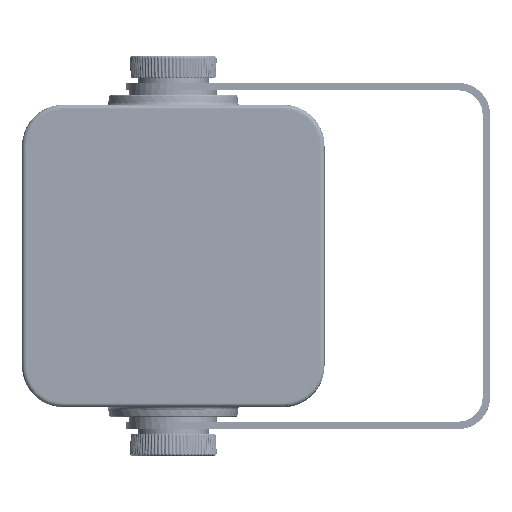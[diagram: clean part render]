
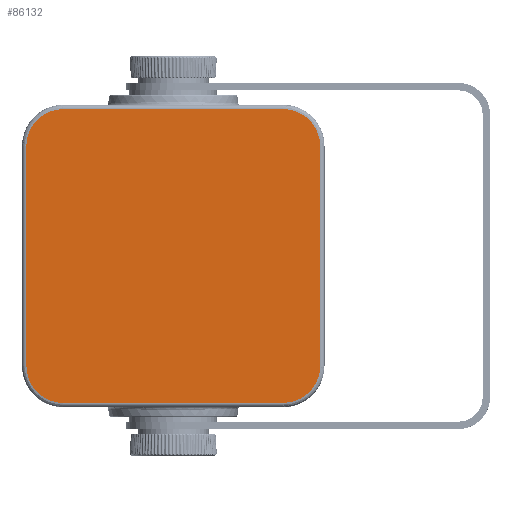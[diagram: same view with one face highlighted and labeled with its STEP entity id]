
A CAD part, front view. The second image highlights one B-rep face of the part: STEP entity #86132.
In plain terms, the highlighted planar face has unit normal (0, -1, 0).
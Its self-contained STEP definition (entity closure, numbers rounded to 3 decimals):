
#8541=B_SPLINE_CURVE_WITH_KNOTS('',3,(#134797,#134798,#134799,#134800,#134801,
#134802,#134803),.UNSPECIFIED.,.F.,.F.,(4,1,1,1,4),(0.,0.25,0.5,0.75,1.),
 .UNSPECIFIED.);
#8542=B_SPLINE_CURVE_WITH_KNOTS('',3,(#134808,#134809,#134810,#134811,#134812,
#134813,#134814),.UNSPECIFIED.,.F.,.F.,(4,1,1,1,4),(0.,0.25,0.5,0.75,1.),
 .UNSPECIFIED.);
#8543=B_SPLINE_CURVE_WITH_KNOTS('',3,(#134818,#134819,#134820,#134821,#134822,
#134823,#134824),.UNSPECIFIED.,.F.,.F.,(4,1,1,1,4),(0.,0.25,0.5,0.75,1.),
 .UNSPECIFIED.);
#8544=B_SPLINE_CURVE_WITH_KNOTS('',3,(#134828,#134829,#134830,#134831,#134832,
#134833,#134834),.UNSPECIFIED.,.F.,.F.,(4,1,1,1,4),(0.,0.25,0.5,0.75,1.),
 .UNSPECIFIED.);
#13114=ORIENTED_EDGE('',*,*,#39998,.T.);
#13115=ORIENTED_EDGE('',*,*,#39999,.T.);
#13116=ORIENTED_EDGE('',*,*,#40000,.T.);
#13117=ORIENTED_EDGE('',*,*,#40001,.T.);
#13118=ORIENTED_EDGE('',*,*,#40002,.T.);
#13119=ORIENTED_EDGE('',*,*,#40003,.T.);
#13120=ORIENTED_EDGE('',*,*,#40004,.T.);
#13121=ORIENTED_EDGE('',*,*,#40005,.T.);
#39998=EDGE_CURVE('',#53460,#53461,#8541,.T.);
#39999=EDGE_CURVE('',#53461,#53462,#61827,.F.);
#40000=EDGE_CURVE('',#53462,#53463,#8542,.T.);
#40001=EDGE_CURVE('',#53463,#53464,#61828,.F.);
#40002=EDGE_CURVE('',#53464,#53465,#8543,.T.);
#40003=EDGE_CURVE('',#53465,#53466,#61829,.F.);
#40004=EDGE_CURVE('',#53466,#53467,#8544,.T.);
#40005=EDGE_CURVE('',#53467,#53460,#61830,.F.);
#53460=VERTEX_POINT('',#134804);
#53461=VERTEX_POINT('',#134805);
#53462=VERTEX_POINT('',#134807);
#53463=VERTEX_POINT('',#134815);
#53464=VERTEX_POINT('',#134817);
#53465=VERTEX_POINT('',#134825);
#53466=VERTEX_POINT('',#134827);
#53467=VERTEX_POINT('',#134835);
#61827=LINE('',#134806,#66527);
#61828=LINE('',#134816,#66528);
#61829=LINE('',#134826,#66529);
#61830=LINE('',#134836,#66530);
#66527=VECTOR('',#111790,1000.);
#66528=VECTOR('',#111791,1000.);
#66529=VECTOR('',#111792,1000.);
#66530=VECTOR('',#111793,1000.);
#71182=EDGE_LOOP('',(#13114,#13115,#13116,#13117,#13118,#13119,#13120,#13121));
#77632=FACE_BOUND('',#71182,.T.);
#84014=PLANE('',#102848);
#86132=ADVANCED_FACE('',(#77632),#84014,.T.);
#102848=AXIS2_PLACEMENT_3D('',#134796,#111788,#111789);
#111788=DIRECTION('',(0.,-1.,0.));
#111789=DIRECTION('',(0.,0.,-1.));
#111790=DIRECTION('',(1.,0.,0.));
#111791=DIRECTION('',(0.,0.,1.));
#111792=DIRECTION('',(-1.,0.,0.));
#111793=DIRECTION('',(0.,0.,-1.));
#134796=CARTESIAN_POINT('',(-45.11,-6.3,-45.11));
#134797=CARTESIAN_POINT('',(60.278,-6.3,45.111));
#134798=CARTESIAN_POINT('',(60.278,-6.3,47.111));
#134799=CARTESIAN_POINT('',(59.48,-6.3,51.08));
#134800=CARTESIAN_POINT('',(56.111,-6.3,56.117));
#134801=CARTESIAN_POINT('',(51.065,-6.3,59.488));
#134802=CARTESIAN_POINT('',(47.099,-6.3,60.278));
#134803=CARTESIAN_POINT('',(45.111,-6.3,60.278));
#134804=CARTESIAN_POINT('',(60.278,-6.3,45.11));
#134805=CARTESIAN_POINT('',(45.11,-6.3,60.278));
#134806=CARTESIAN_POINT('',(-45.11,-6.3,60.278));
#134807=CARTESIAN_POINT('',(-45.11,-6.3,60.278));
#134808=CARTESIAN_POINT('',(-45.111,-6.3,60.278));
#134809=CARTESIAN_POINT('',(-47.111,-6.3,60.278));
#134810=CARTESIAN_POINT('',(-51.08,-6.3,59.48));
#134811=CARTESIAN_POINT('',(-56.117,-6.3,56.111));
#134812=CARTESIAN_POINT('',(-59.488,-6.3,51.065));
#134813=CARTESIAN_POINT('',(-60.278,-6.3,47.099));
#134814=CARTESIAN_POINT('',(-60.278,-6.3,45.111));
#134815=CARTESIAN_POINT('',(-60.278,-6.3,45.11));
#134816=CARTESIAN_POINT('',(-60.278,-6.3,-45.11));
#134817=CARTESIAN_POINT('',(-60.278,-6.3,-45.11));
#134818=CARTESIAN_POINT('',(-60.278,-6.3,-45.111));
#134819=CARTESIAN_POINT('',(-60.278,-6.3,-47.111));
#134820=CARTESIAN_POINT('',(-59.48,-6.3,-51.08));
#134821=CARTESIAN_POINT('',(-56.111,-6.3,-56.117));
#134822=CARTESIAN_POINT('',(-51.065,-6.3,-59.488));
#134823=CARTESIAN_POINT('',(-47.099,-6.3,-60.278));
#134824=CARTESIAN_POINT('',(-45.111,-6.3,-60.278));
#134825=CARTESIAN_POINT('',(-45.11,-6.3,-60.278));
#134826=CARTESIAN_POINT('',(-45.11,-6.3,-60.278));
#134827=CARTESIAN_POINT('',(45.11,-6.3,-60.278));
#134828=CARTESIAN_POINT('',(45.111,-6.3,-60.278));
#134829=CARTESIAN_POINT('',(47.111,-6.3,-60.278));
#134830=CARTESIAN_POINT('',(51.08,-6.3,-59.48));
#134831=CARTESIAN_POINT('',(56.117,-6.3,-56.111));
#134832=CARTESIAN_POINT('',(59.488,-6.3,-51.065));
#134833=CARTESIAN_POINT('',(60.278,-6.3,-47.099));
#134834=CARTESIAN_POINT('',(60.278,-6.3,-45.111));
#134835=CARTESIAN_POINT('',(60.278,-6.3,-45.11));
#134836=CARTESIAN_POINT('',(60.278,-6.3,-45.11));
